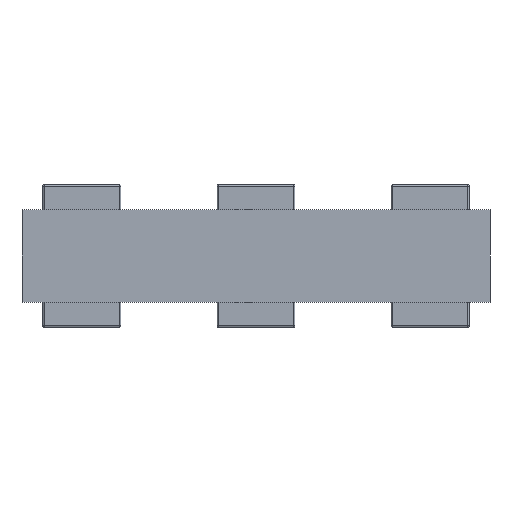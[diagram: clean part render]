
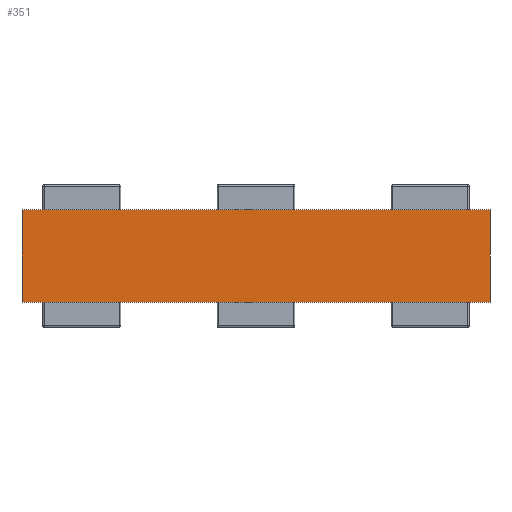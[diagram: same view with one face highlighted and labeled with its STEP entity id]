
A CAD part, front view. The second image highlights one B-rep face of the part: STEP entity #351.
In plain terms, the highlighted planar face has unit normal (0, -1, 0).
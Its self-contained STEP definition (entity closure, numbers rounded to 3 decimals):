
#135 = EDGE_CURVE('',#136,#138,#140,.T.);
#136 = VERTEX_POINT('',#137);
#137 = CARTESIAN_POINT('',(-279.5,0.,30.));
#138 = VERTEX_POINT('',#139);
#139 = CARTESIAN_POINT('',(-279.5,0.,140.));
#140 = SURFACE_CURVE('',#141,(#145,#157),.PCURVE_S1.);
#141 = LINE('',#142,#143);
#142 = CARTESIAN_POINT('',(-279.5,0.,30.));
#143 = VECTOR('',#144,1.);
#144 = DIRECTION('',(0.,0.,1.));
#145 = PCURVE('',#146,#151);
#146 = PLANE('',#147);
#147 = AXIS2_PLACEMENT_3D('',#148,#149,#150);
#148 = CARTESIAN_POINT('',(-279.5,0.,30.));
#149 = DIRECTION('',(1.,0.,0.));
#150 = DIRECTION('',(0.,0.,1.));
#151 = DEFINITIONAL_REPRESENTATION('',(#152),#156);
#152 = LINE('',#153,#154);
#153 = CARTESIAN_POINT('',(0.,0.));
#154 = VECTOR('',#155,1.);
#155 = DIRECTION('',(1.,0.));
#156 = ( GEOMETRIC_REPRESENTATION_CONTEXT(2) 
PARAMETRIC_REPRESENTATION_CONTEXT() REPRESENTATION_CONTEXT('2D SPACE',''
  ) );
#157 = PCURVE('',#158,#163);
#158 = PLANE('',#159);
#159 = AXIS2_PLACEMENT_3D('',#160,#161,#162);
#160 = CARTESIAN_POINT('',(-279.5,0.,30.));
#161 = DIRECTION('',(0.,1.,0.));
#162 = DIRECTION('',(0.,0.,1.));
#163 = DEFINITIONAL_REPRESENTATION('',(#164),#168);
#164 = LINE('',#165,#166);
#165 = CARTESIAN_POINT('',(0.,0.));
#166 = VECTOR('',#167,1.);
#167 = DIRECTION('',(1.,0.));
#168 = ( GEOMETRIC_REPRESENTATION_CONTEXT(2) 
PARAMETRIC_REPRESENTATION_CONTEXT() REPRESENTATION_CONTEXT('2D SPACE',''
  ) );
#186 = PLANE('',#187);
#187 = AXIS2_PLACEMENT_3D('',#188,#189,#190);
#188 = CARTESIAN_POINT('',(-279.5,0.,30.));
#189 = DIRECTION('',(0.,0.,1.));
#190 = DIRECTION('',(1.,0.,0.));
#240 = PLANE('',#241);
#241 = AXIS2_PLACEMENT_3D('',#242,#243,#244);
#242 = CARTESIAN_POINT('',(-279.5,0.,140.));
#243 = DIRECTION('',(0.,0.,1.));
#244 = DIRECTION('',(1.,0.,0.));
#255 = EDGE_CURVE('',#256,#258,#260,.T.);
#256 = VERTEX_POINT('',#257);
#257 = CARTESIAN_POINT('',(279.5,0.,30.));
#258 = VERTEX_POINT('',#259);
#259 = CARTESIAN_POINT('',(279.5,0.,140.));
#260 = SURFACE_CURVE('',#261,(#265,#277),.PCURVE_S1.);
#261 = LINE('',#262,#263);
#262 = CARTESIAN_POINT('',(279.5,0.,30.));
#263 = VECTOR('',#264,1.);
#264 = DIRECTION('',(0.,0.,1.));
#265 = PCURVE('',#266,#271);
#266 = PLANE('',#267);
#267 = AXIS2_PLACEMENT_3D('',#268,#269,#270);
#268 = CARTESIAN_POINT('',(279.5,0.,30.));
#269 = DIRECTION('',(1.,0.,0.));
#270 = DIRECTION('',(0.,0.,1.));
#271 = DEFINITIONAL_REPRESENTATION('',(#272),#276);
#272 = LINE('',#273,#274);
#273 = CARTESIAN_POINT('',(0.,0.));
#274 = VECTOR('',#275,1.);
#275 = DIRECTION('',(1.,0.));
#276 = ( GEOMETRIC_REPRESENTATION_CONTEXT(2) 
PARAMETRIC_REPRESENTATION_CONTEXT() REPRESENTATION_CONTEXT('2D SPACE',''
  ) );
#277 = PCURVE('',#158,#278);
#278 = DEFINITIONAL_REPRESENTATION('',(#279),#283);
#279 = LINE('',#280,#281);
#280 = CARTESIAN_POINT('',(0.,559.));
#281 = VECTOR('',#282,1.);
#282 = DIRECTION('',(1.,0.));
#283 = ( GEOMETRIC_REPRESENTATION_CONTEXT(2) 
PARAMETRIC_REPRESENTATION_CONTEXT() REPRESENTATION_CONTEXT('2D SPACE',''
  ) );
#351 = ADVANCED_FACE('',(#352),#158,.F.);
#352 = FACE_BOUND('',#353,.F.);
#353 = EDGE_LOOP('',(#354,#375,#376,#397));
#354 = ORIENTED_EDGE('',*,*,#355,.F.);
#355 = EDGE_CURVE('',#136,#256,#356,.T.);
#356 = SURFACE_CURVE('',#357,(#361,#368),.PCURVE_S1.);
#357 = LINE('',#358,#359);
#358 = CARTESIAN_POINT('',(-279.5,0.,30.));
#359 = VECTOR('',#360,1.);
#360 = DIRECTION('',(1.,0.,0.));
#361 = PCURVE('',#158,#362);
#362 = DEFINITIONAL_REPRESENTATION('',(#363),#367);
#363 = LINE('',#364,#365);
#364 = CARTESIAN_POINT('',(0.,0.));
#365 = VECTOR('',#366,1.);
#366 = DIRECTION('',(0.,1.));
#367 = ( GEOMETRIC_REPRESENTATION_CONTEXT(2) 
PARAMETRIC_REPRESENTATION_CONTEXT() REPRESENTATION_CONTEXT('2D SPACE',''
  ) );
#368 = PCURVE('',#186,#369);
#369 = DEFINITIONAL_REPRESENTATION('',(#370),#374);
#370 = LINE('',#371,#372);
#371 = CARTESIAN_POINT('',(0.,0.));
#372 = VECTOR('',#373,1.);
#373 = DIRECTION('',(1.,0.));
#374 = ( GEOMETRIC_REPRESENTATION_CONTEXT(2) 
PARAMETRIC_REPRESENTATION_CONTEXT() REPRESENTATION_CONTEXT('2D SPACE',''
  ) );
#375 = ORIENTED_EDGE('',*,*,#135,.T.);
#376 = ORIENTED_EDGE('',*,*,#377,.T.);
#377 = EDGE_CURVE('',#138,#258,#378,.T.);
#378 = SURFACE_CURVE('',#379,(#383,#390),.PCURVE_S1.);
#379 = LINE('',#380,#381);
#380 = CARTESIAN_POINT('',(-279.5,0.,140.));
#381 = VECTOR('',#382,1.);
#382 = DIRECTION('',(1.,0.,0.));
#383 = PCURVE('',#158,#384);
#384 = DEFINITIONAL_REPRESENTATION('',(#385),#389);
#385 = LINE('',#386,#387);
#386 = CARTESIAN_POINT('',(110.,0.));
#387 = VECTOR('',#388,1.);
#388 = DIRECTION('',(0.,1.));
#389 = ( GEOMETRIC_REPRESENTATION_CONTEXT(2) 
PARAMETRIC_REPRESENTATION_CONTEXT() REPRESENTATION_CONTEXT('2D SPACE',''
  ) );
#390 = PCURVE('',#240,#391);
#391 = DEFINITIONAL_REPRESENTATION('',(#392),#396);
#392 = LINE('',#393,#394);
#393 = CARTESIAN_POINT('',(0.,0.));
#394 = VECTOR('',#395,1.);
#395 = DIRECTION('',(1.,0.));
#396 = ( GEOMETRIC_REPRESENTATION_CONTEXT(2) 
PARAMETRIC_REPRESENTATION_CONTEXT() REPRESENTATION_CONTEXT('2D SPACE',''
  ) );
#397 = ORIENTED_EDGE('',*,*,#255,.F.);
